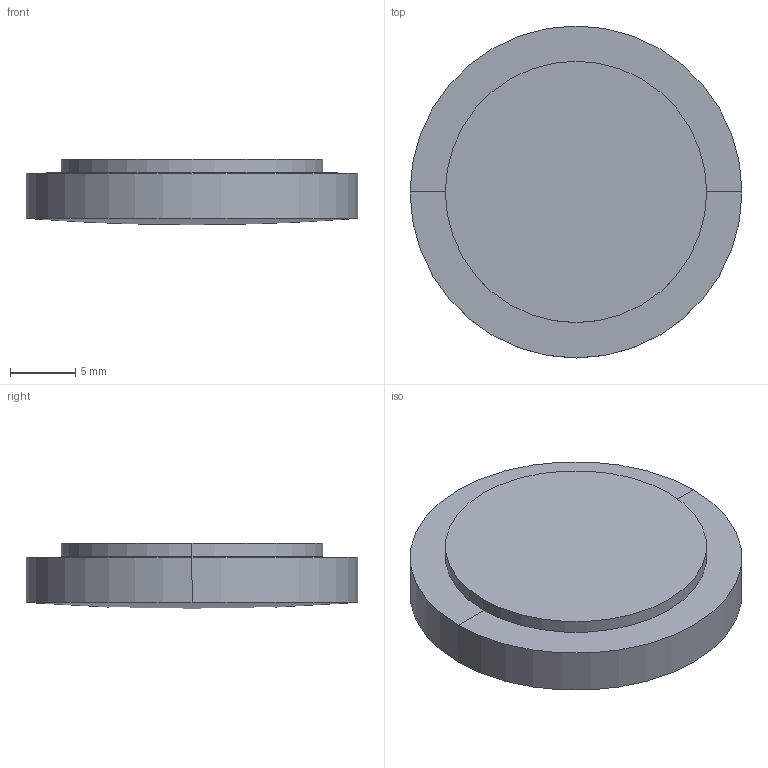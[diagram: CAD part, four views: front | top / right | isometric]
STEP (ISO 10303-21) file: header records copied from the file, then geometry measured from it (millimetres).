
FILE_DESCRIPTION(('STEP AP214'),'1');
FILE_NAME('LLV-25300.STEP','2020-03-09T17:42:22',(' '),(' '),'Spatial InterOp 3D',' ',' ');
FILE_SCHEMA(('AUTOMOTIVE_DESIGN { 1 0 10303 214 1 1 1 1 }'));
Length unit declared in the file: millimetre
Products named in the file (1): 1
Bounding box: 25.4 x 25.4 x 5 mm (x, y, z)
Volume: 2205.9 mm3; surface area: 1981.9 mm2
Topology: 2 solids, 2 shells, 10 faces, 20 edges, 10 vertices
Faces by surface type: sphere 4, cylinder 4, plane 2
Entity records: 255 total; most frequent: DIRECTION 52, CARTESIAN_POINT 38, ORIENTED_EDGE 32, AXIS2_PLACEMENT_3D 24, EDGE_CURVE 16, CIRCLE 12, ADVANCED_FACE 10, FACE_OUTER_BOUND 10
